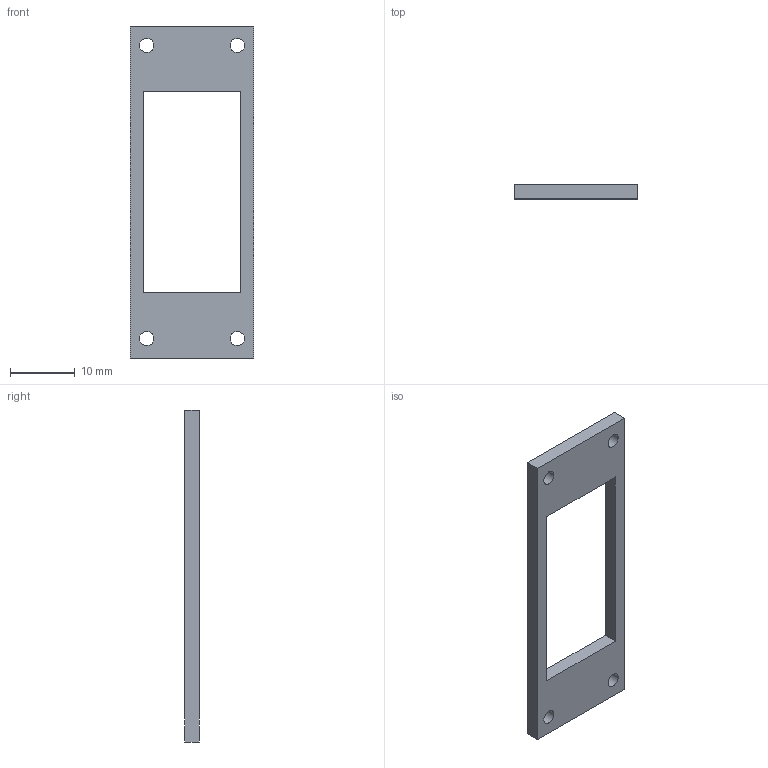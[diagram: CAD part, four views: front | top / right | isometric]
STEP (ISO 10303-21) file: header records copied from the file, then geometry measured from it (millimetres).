
FILE_DESCRIPTION(/* description */ ('Separate front cover clamps servo against the rear stop. Four M2 fasteners positioned outside the speaker height; reachable after removing the front cassette.'),/* implementation_level */ '2;1');
FILE_NAME(/* name */ '18 Swivel cartridge front retainer.step',/* time_stamp */ '2026-10-02T18:55:10+01:00',/* author */ (''),/* organization */ (''),/* preprocessor_version */ 'ST-DEVELOPER v20.2',/* originating_system */ 'Autodesk Translation Framework v15.15.0.0',/* authorisation */ '');
FILE_SCHEMA (('AUTOMOTIVE_DESIGN { 1 0 10303 214 3 1 1 }'));
Length unit declared in the file: millimetre
Products named in the file (1): 2026-10-02-18-55-10-132
Bounding box: 19 x 2.2 x 51.2 mm (x, y, z)
Volume: 1083.7 mm3; surface area: 1557.3 mm2
Topology: 1 solids, 1 shells, 14 faces, 36 edges, 24 vertices
Faces by surface type: plane 10, cylinder 4
Full cylindrical faces by diameter (mm): 2.2 x4
Entity records: 481 total; most frequent: CARTESIAN_POINT 75, DIRECTION 74, ORIENTED_EDGE 72, EDGE_CURVE 36, LINE 28, VECTOR 28, EDGE_LOOP 24, VERTEX_POINT 24
